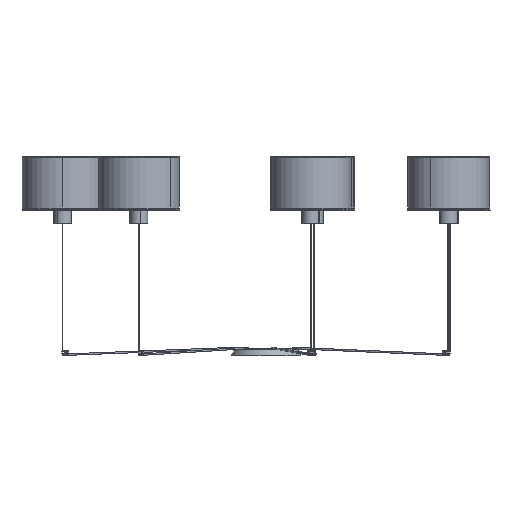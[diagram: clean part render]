
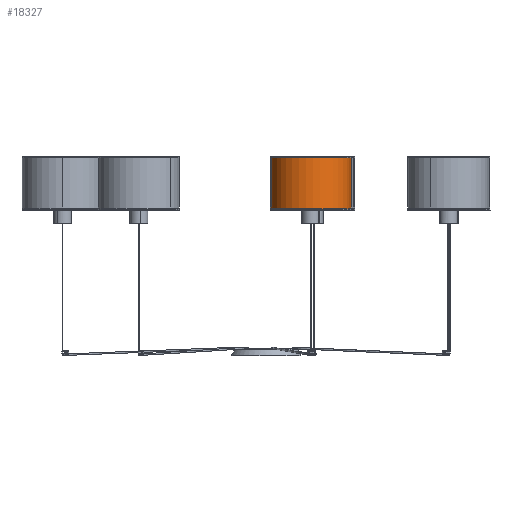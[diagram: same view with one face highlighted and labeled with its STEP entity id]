
A CAD part, left-side view. The second image highlights one B-rep face of the part: STEP entity #18327.
In plain terms, the highlighted cylindrical face has radius 159.199 mm (diameter 318.397 mm), a partial arc.
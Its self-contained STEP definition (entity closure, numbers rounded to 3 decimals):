
#2813=FACE_OUTER_BOUND('',#4066,.T.);
#4066=EDGE_LOOP('',(#16387,#16388,#16389,#16390));
#5149=LINE('',#45441,#6212);
#5150=LINE('',#45442,#6213);
#6212=VECTOR('',#25436,304.8);
#6213=VECTOR('',#25437,304.8);
#7098=CIRCLE('',#20406,159.199);
#7100=CIRCLE('',#20410,159.199);
#8660=VERTEX_POINT('',#45425);
#8661=VERTEX_POINT('',#45427);
#8662=VERTEX_POINT('',#45433);
#8663=VERTEX_POINT('',#45435);
#11269=EDGE_CURVE('',#8661,#8660,#7098,.T.);
#11273=EDGE_CURVE('',#8663,#8662,#7100,.T.);
#11274=EDGE_CURVE('',#8662,#8661,#5149,.T.);
#11275=EDGE_CURVE('',#8660,#8663,#5150,.T.);
#16387=ORIENTED_EDGE('',*,*,#11274,.T.);
#16388=ORIENTED_EDGE('',*,*,#11269,.T.);
#16389=ORIENTED_EDGE('',*,*,#11275,.T.);
#16390=ORIENTED_EDGE('',*,*,#11273,.T.);
#17193=CYLINDRICAL_SURFACE('',#20412,159.199);
#18327=ADVANCED_FACE('',(#2813),#17193,.T.);
#20406=AXIS2_PLACEMENT_3D('',#45431,#25422,#25423);
#20410=AXIS2_PLACEMENT_3D('',#45439,#25432,#25433);
#20412=AXIS2_PLACEMENT_3D('',#45443,#25438,#25439);
#25422=DIRECTION('center_axis',(0.,0.,1.));
#25423=DIRECTION('ref_axis',(-1.,0.,0.));
#25432=DIRECTION('center_axis',(0.,0.,-1.));
#25433=DIRECTION('ref_axis',(-1.,0.,0.));
#25436=DIRECTION('',(0.,0.,-1.));
#25437=DIRECTION('',(0.,0.,1.));
#25438=DIRECTION('center_axis',(0.,0.,-1.));
#25439=DIRECTION('ref_axis',(-1.,0.,0.));
#45425=CARTESIAN_POINT('',(-159.199,800.,744.927));
#45427=CARTESIAN_POINT('',(159.199,800.,744.927));
#45431=CARTESIAN_POINT('Origin',(0.,800.,
744.927));
#45433=CARTESIAN_POINT('',(159.199,800.,948.155));
#45435=CARTESIAN_POINT('',(-159.199,800.,948.155));
#45439=CARTESIAN_POINT('Origin',(0.,800.,
948.155));
#45441=CARTESIAN_POINT('',(159.199,800.,948.155));
#45442=CARTESIAN_POINT('',(-159.199,800.,744.927));
#45443=CARTESIAN_POINT('Origin',(0.,800.,
-749.713));
